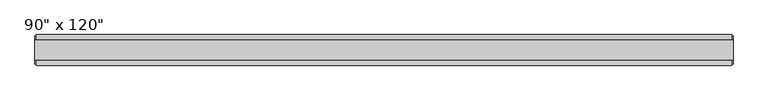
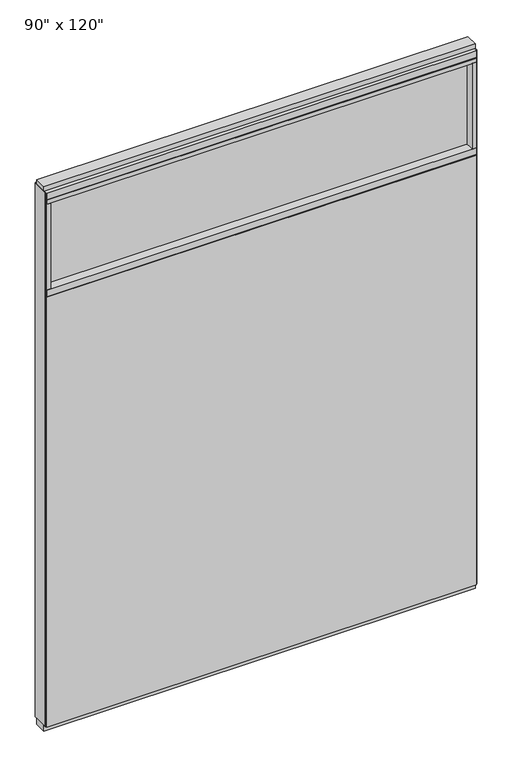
"""IFC4 building model written with IfcOpenShell, lengths in millimetres: furniture geometry."""

from ifc_helpers import new_model, si_unit, frame, origin, origin_with_axes, place, context, project, spatial, polyline, outline, extrude, source, transform, mapped, element, save


def furniture_e0caa164(model_context):
    return source(origin(), model_context, "Body", "SweptSolid", [
        extrude(outline(polyline([(1079.0264771, -46.2822784), (-1199.0995229, -46.2822784), (-1199.0995229, -33.5822784), (1079.0264771, -33.5822784), (1079.0264771, -46.2822784)])), frame((0.0, 0.0, 31.75), z_axis=(0.0, 0.0, 1.0), x_axis=(1.0, 0.0, 0.0)), (0.0, 0.0, 1.0), 2406.65),
        extrude(outline(polyline([(1079.0264771, 55.3177216), (1079.0264771, 42.6177216), (-1199.0995229, 42.6177216), (-1199.0995229, 55.3177216), (1079.0264771, 55.3177216)])), frame((0.0, 0.0, 31.75), z_axis=(0.0, 0.0, 1.0), x_axis=(1.0, 0.0, 0.0)), (0.0, 0.0, 1.0), 2406.65),
        extrude(outline(polyline([(1056.8014771, 9.5977216), (1056.8014771, -0.5622784), (-1176.8745229, -0.5622784), (-1176.8745229, 9.5977216), (1056.8014771, 9.5977216)])), frame((0.0, 0.0, 2479.675), z_axis=(0.0, 0.0, 1.0), x_axis=(1.0, 0.0, 0.0)), (0.0, 0.0, 1.0), 479.425),
        extrude(outline(polyline([(1056.8014771, 55.3177216), (1079.0264771, 55.3177216), (1079.0264771, -46.2822784), (1056.8014771, -46.2822784), (1056.8014771, 55.3177216)])), frame((0.0, 0.0, 2479.675), z_axis=(0.0, 0.0, 1.0), x_axis=(1.0, 0.0, 0.0)), (0.0, 0.0, 1.0), 479.425),
        extrude(outline(polyline([(55.3177216, 2443.353), (50.3647216, 2443.353), (50.3647216, 2438.4), (-41.3292784, 2438.4), (-41.3292784, 2443.353), (-46.2822784, 2443.353), (-46.2822784, 2479.675), (55.3177216, 2479.675), (55.3177216, 2443.353)])), frame((-1199.0995229, 0.0, 0.0), z_axis=(1.0, 0.0, 0.0), x_axis=(0.0, 1.0, 0.0)), (0.0, 0.0, 1.0), 2278.126),
        extrude(outline(polyline([(-1176.8745229, 55.3177216), (-1176.8745229, -46.2822784), (-1199.0995229, -46.2822784), (-1199.0995229, 55.3177216), (-1176.8745229, 55.3177216)])), frame((0.0, 0.0, 2479.675), z_axis=(0.0, 0.0, 1.0), x_axis=(1.0, 0.0, 0.0)), (0.0, 0.0, 1.0), 479.425),
        extrude(outline(polyline([(1082.9634771, -27.9942784), (-1203.0365229, -27.9942784), (-1203.0365229, 37.0297216), (1082.9634771, 37.0297216), (1082.9634771, -27.9942784)])), origin_with_axes(), (0.0, 0.0, 1.0), 31.75),
        extrude(outline(polyline([(-1203.0365229, 37.0297216), (1082.9634771, 37.0297216), (1082.9634771, -27.9942784), (-1203.0365229, -27.9942784), (-1203.0365229, 37.0297216)])), frame((0.0, 0.0, 3022.6), z_axis=(0.0, 0.0, 1.0), x_axis=(1.0, 0.0, 0.0)), (0.0, 0.0, 1.0), 25.4),
        extrude(outline(polyline([(55.3177216, 2986.278), (50.3647216, 2986.278), (50.3647216, 2981.325), (-41.3292784, 2981.325), (-41.3292784, 2986.278), (-46.2822784, 2986.278), (-46.2822784, 3022.6), (55.3177216, 3022.6), (55.3177216, 2986.278)])), frame((-1199.0995229, 0.0, 0.0), z_axis=(1.0, 0.0, 0.0), x_axis=(0.0, 1.0, 0.0)), (0.0, 0.0, 1.0), 2278.126),
        extrude(outline(polyline([(1079.0264771, -46.2822784), (-1199.0995229, -46.2822784), (-1199.0995229, 55.3177216), (1079.0264771, 55.3177216), (1079.0264771, -46.2822784)])), frame((0.0, 0.0, 2959.1), z_axis=(0.0, 0.0, 1.0), x_axis=(1.0, 0.0, 0.0)), (0.0, 0.0, 1.0), 22.225),
        extrude(outline(polyline([(1082.9634771, 50.3647216), (1082.9634771, -41.3292784), (1079.0264771, -41.3292784), (1079.0264771, 50.3647216), (1082.9634771, 50.3647216)])), frame((0.0, 0.0, 31.75), z_axis=(0.0, 0.0, 1.0), x_axis=(1.0, 0.0, 0.0)), (0.0, 0.0, 1.0), 2990.85),
        extrude(outline(polyline([(-1203.0365229, 50.3647216), (-1199.0995229, 50.3647216), (-1199.0995229, -41.3292784), (-1203.0365229, -41.3292784), (-1203.0365229, 50.3647216)])), frame((0.0, 0.0, 31.75), z_axis=(0.0, 0.0, 1.0), x_axis=(1.0, 0.0, 0.0)), (0.0, 0.0, 1.0), 2990.85),
    ])


if __name__ == "__main__":
    model = new_model("IFC4")
    model_context = context("Model", 3, world=origin())
    ifc_project = project(units=[si_unit("LENGTHUNIT", "METRE", prefix="MILLI")], contexts=[model_context])
    site = spatial("IfcSite", under=ifc_project)
    building = spatial("IfcBuilding", under=site)
    placement = place(None, origin())
    furniture_shape = furniture_e0caa164(model_context)
    element("IfcFurniture", 1, ObjectType="Haworth_Enclose_Wall_SolidTransom : 90\" x 120\"", at=placement, inside=building, context=model_context, shape_type="MappedRepresentation", body=[
        mapped(furniture_shape, transform((0.0, 0.0, 0.0), x_axis=(1.0, 0.0, 0.0), y_axis=(0.0, 1.0, 0.0), z_axis=(0.0, 0.0, 1.0))),
    ])
    save(model, "model.ifc")
